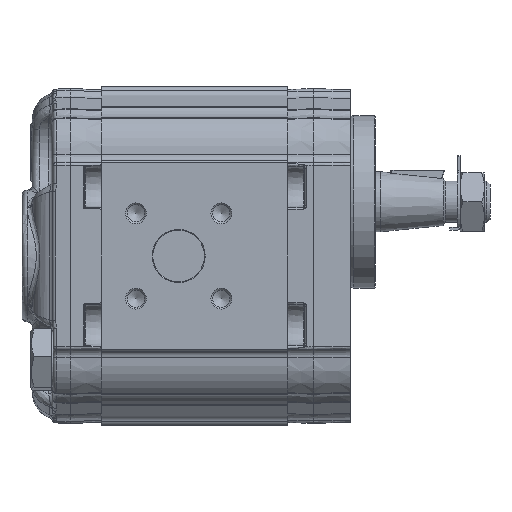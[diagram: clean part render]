
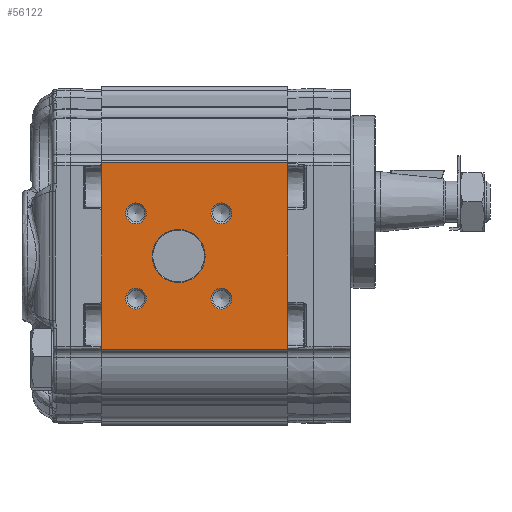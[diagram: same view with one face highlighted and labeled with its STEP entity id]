
A CAD part, left-side view. The second image highlights one B-rep face of the part: STEP entity #56122.
In plain terms, the highlighted planar face has unit normal (-1, 0, 0).
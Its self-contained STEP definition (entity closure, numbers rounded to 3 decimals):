
#3703=PLANE('',#59644);
#5021=CIRCLE('',#59645,7.7);
#5022=CIRCLE('',#59646,3.);
#5023=CIRCLE('',#59647,3.);
#5024=CIRCLE('',#59648,3.);
#5025=CIRCLE('',#59649,3.);
#11173=ORIENTED_EDGE('',*,*,#20204,.T.);
#11174=ORIENTED_EDGE('',*,*,#20205,.T.);
#11175=ORIENTED_EDGE('',*,*,#20206,.T.);
#11176=ORIENTED_EDGE('',*,*,#20207,.T.);
#11177=ORIENTED_EDGE('',*,*,#20208,.T.);
#11178=ORIENTED_EDGE('',*,*,#20209,.F.);
#11179=ORIENTED_EDGE('',*,*,#20210,.F.);
#11180=ORIENTED_EDGE('',*,*,#20211,.T.);
#11181=ORIENTED_EDGE('',*,*,#20212,.T.);
#20204=EDGE_CURVE('',#25046,#25046,#5021,.F.);
#20205=EDGE_CURVE('',#25047,#25047,#5022,.F.);
#20206=EDGE_CURVE('',#25048,#25048,#5023,.F.);
#20207=EDGE_CURVE('',#25049,#25049,#5024,.F.);
#20208=EDGE_CURVE('',#25050,#25050,#5025,.F.);
#20209=EDGE_CURVE('',#25051,#25052,#27939,.T.);
#20210=EDGE_CURVE('',#25053,#25051,#27940,.T.);
#20211=EDGE_CURVE('',#25053,#25054,#27941,.T.);
#20212=EDGE_CURVE('',#25054,#25052,#27942,.T.);
#25046=VERTEX_POINT('',#86806);
#25047=VERTEX_POINT('',#86808);
#25048=VERTEX_POINT('',#86810);
#25049=VERTEX_POINT('',#86812);
#25050=VERTEX_POINT('',#86814);
#25051=VERTEX_POINT('',#86816);
#25052=VERTEX_POINT('',#86817);
#25053=VERTEX_POINT('',#86819);
#25054=VERTEX_POINT('',#86821);
#27939=LINE('',#86815,#29974);
#27940=LINE('',#86818,#29975);
#27941=LINE('',#86820,#29976);
#27942=LINE('',#86822,#29977);
#29974=VECTOR('',#66583,1000.);
#29975=VECTOR('',#66584,1000.);
#29976=VECTOR('',#66585,1000.);
#29977=VECTOR('',#66586,1000.);
#32371=EDGE_LOOP('',(#11173));
#32372=EDGE_LOOP('',(#11174));
#32373=EDGE_LOOP('',(#11175));
#32374=EDGE_LOOP('',(#11176));
#32375=EDGE_LOOP('',(#11177));
#32376=EDGE_LOOP('',(#11178,#11179,#11180,#11181));
#35152=FACE_BOUND('',#32371,.T.);
#35153=FACE_BOUND('',#32372,.T.);
#35154=FACE_BOUND('',#32373,.T.);
#35155=FACE_BOUND('',#32374,.T.);
#35156=FACE_BOUND('',#32375,.T.);
#35157=FACE_BOUND('',#32376,.T.);
#56122=ADVANCED_FACE('',(#35152,#35153,#35154,#35155,#35156,#35157),#3703,
 .T.);
#59644=AXIS2_PLACEMENT_3D('',#86804,#66571,#66572);
#59645=AXIS2_PLACEMENT_3D('',#86805,#66573,#66574);
#59646=AXIS2_PLACEMENT_3D('',#86807,#66575,#66576);
#59647=AXIS2_PLACEMENT_3D('',#86809,#66577,#66578);
#59648=AXIS2_PLACEMENT_3D('',#86811,#66579,#66580);
#59649=AXIS2_PLACEMENT_3D('',#86813,#66581,#66582);
#66571=DIRECTION('',(-1.,0.,0.));
#66572=DIRECTION('',(0.,0.,1.));
#66573=DIRECTION('',(-1.,0.,0.));
#66574=DIRECTION('',(0.,0.,1.));
#66575=DIRECTION('',(-1.,0.,0.));
#66576=DIRECTION('',(0.,0.,1.));
#66577=DIRECTION('',(-1.,0.,0.));
#66578=DIRECTION('',(0.,0.,1.));
#66579=DIRECTION('',(-1.,0.,0.));
#66580=DIRECTION('',(0.,0.,1.));
#66581=DIRECTION('',(-1.,0.,0.));
#66582=DIRECTION('',(0.,0.,1.));
#66583=DIRECTION('',(0.,0.,-1.));
#66584=DIRECTION('',(0.,-1.,0.));
#66585=DIRECTION('',(0.,0.,-1.));
#66586=DIRECTION('',(0.,-1.,0.));
#86804=CARTESIAN_POINT('',(-43.,54.,27.048));
#86805=CARTESIAN_POINT('',(-43.,31.6,0.));
#86806=CARTESIAN_POINT('',(-43.,31.6,7.7));
#86807=CARTESIAN_POINT('',(-43.,43.974,-12.374));
#86808=CARTESIAN_POINT('',(-43.,43.974,-9.374));
#86809=CARTESIAN_POINT('',(-43.,43.974,12.374));
#86810=CARTESIAN_POINT('',(-43.,43.974,15.374));
#86811=CARTESIAN_POINT('',(-43.,19.226,12.374));
#86812=CARTESIAN_POINT('',(-43.,19.226,15.374));
#86813=CARTESIAN_POINT('',(-43.,19.226,-12.374));
#86814=CARTESIAN_POINT('',(-43.,19.226,-9.374));
#86815=CARTESIAN_POINT('',(-43.,0.,27.048));
#86816=CARTESIAN_POINT('',(-43.,0.,27.048));
#86817=CARTESIAN_POINT('',(-43.,0.,-27.048));
#86818=CARTESIAN_POINT('',(-43.,54.,27.048));
#86819=CARTESIAN_POINT('',(-43.,54.,27.048));
#86820=CARTESIAN_POINT('',(-43.,54.,27.048));
#86821=CARTESIAN_POINT('',(-43.,54.,-27.048));
#86822=CARTESIAN_POINT('',(-43.,54.,-27.048));
